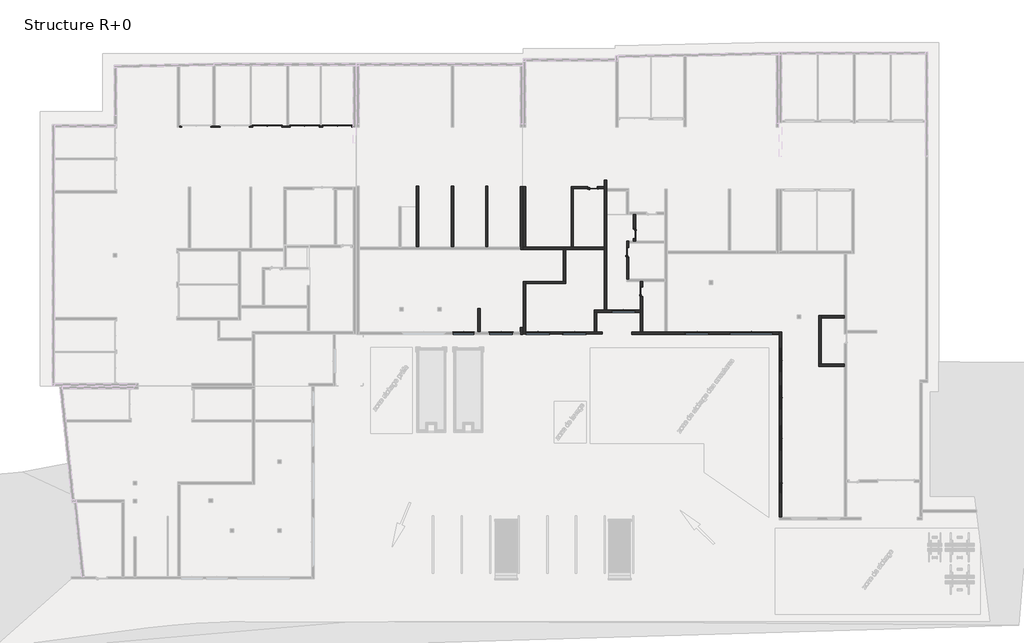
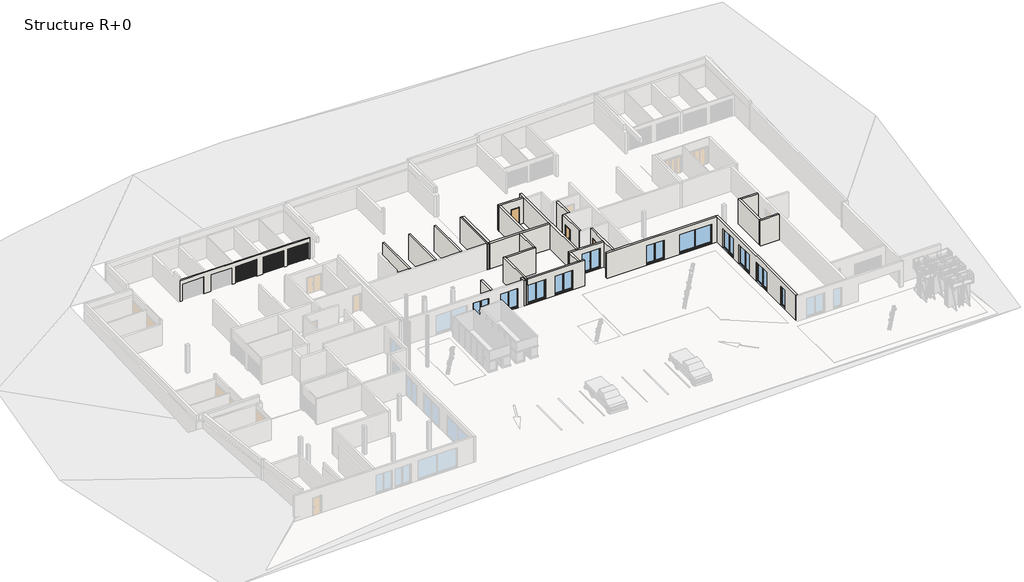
# One storey, part 3 of 8: 26 walls, 11 windows, 7 doors.
"""IFC4 building model written with IfcOpenShell, lengths in millimetres."""

from ifc_helpers import new_model, si_unit, frame, origin, origin_with_axes, place, context, project, spatial, polyline, outline, extrude, faceted_brep, transform, mapped, element, save
from components import door_2_4m_x_2m_ca442cef, int_simple_pp_0_83m_x_2_04m_d9e52805, int_simple_pp_0_83m_x_2_04m_469df17f, int_simple_pp_0_83m_x_2_04m_462b1650, window_0_80m_x_2_25m_5dfc30a4, window_1_80m_x_2_25m_6a560d0c, window_2_00m_x_2_35m_2ed9f70e, window_2m_x_2_25m_73eb5746, window_3_6m_x_2_25m_d801bdb7

model = new_model("IFC4")

# Units and contexts
model_context = context("Model", 3, world=origin())
ifc_project = project(units=[si_unit("LENGTHUNIT", "METRE", prefix="MILLI")], contexts=[model_context])

# Site, building, storey
site = spatial("IfcSite", under=ifc_project)
building = spatial("IfcBuilding", under=site)
storey = spatial("IfcBuildingStorey", under=building, Name="Structure R+0", Elevation=0.0)

# Doors
placement = place(None, origin())
door_2_4m_x_2m_shape = door_2_4m_x_2m_ca442cef(model_context)
element("IfcDoor", 1, ObjectType="Garage basculante : 2.4m x 2m", at=placement, inside=storey, context=model_context, shape_type="MappedRepresentation", body=[
    mapped(door_2_4m_x_2m_shape, transform((22246.2848609, 31548.8556304, 0.0), x_axis=(-1.0, 0.0, 0.0), y_axis=(0.0, -1.0, 0.0), z_axis=(0.0, 0.0, 1.0))),
])
element("IfcDoor", 2, ObjectType="Garage basculante : 2.4m x 2m", at=placement, inside=storey, context=model_context, shape_type="MappedRepresentation", body=[
    mapped(door_2_4m_x_2m_shape, transform((19494.2795115, 31548.8556304, 0.0), x_axis=(-1.0, 0.0, 0.0), y_axis=(0.0, -1.0, 0.0), z_axis=(0.0, 0.0, 1.0))),
])
element("IfcDoor", 3, ObjectType="Garage basculante : 2.4m x 2m", at=placement, inside=storey, context=model_context, shape_type="MappedRepresentation", body=[
    mapped(door_2_4m_x_2m_shape, transform((16361.19903, 31548.8556304, 0.0), x_axis=(-1.0, 0.0, 0.0), y_axis=(0.0, -1.0, 0.0), z_axis=(0.0, 0.0, 1.0))),
])
int_simple_pp_0_83m_x_2_04m_shape = int_simple_pp_0_83m_x_2_04m_d9e52805(model_context)
element("IfcDoor", 4, ObjectType="Int. Simple : PP (0.83m x 2.04m)", at=placement, inside=storey, context=model_context, shape_type="MappedRepresentation", body=[
    mapped(int_simple_pp_0_83m_x_2_04m_shape, transform((47187.0291518, 22857.2599127, 0.0), x_axis=(0.0, -1.0, 0.0), y_axis=(1.0, 0.0, 0.0), z_axis=(0.0, 0.0, 1.0))),
])
int_simple_pp_0_83m_x_2_04m_2_shape = int_simple_pp_0_83m_x_2_04m_469df17f(model_context)
element("IfcDoor", 5, ObjectType="Int. Simple : PP (0.83m x 2.04m)", at=placement, inside=storey, context=model_context, shape_type="MappedRepresentation", body=[
    mapped(int_simple_pp_0_83m_x_2_04m_2_shape, transform((46617.9132164, 21347.2599127, 0.0), x_axis=(0.0, 1.0, 0.0), y_axis=(-1.0, 0.0, 0.0), z_axis=(0.0, 0.0, 1.0))),
])
element("IfcDoor", 6, ObjectType="Int. Simple : PP (0.83m x 2.04m)", at=placement, inside=storey, context=model_context, shape_type="MappedRepresentation", body=[
    mapped(int_simple_pp_0_83m_x_2_04m_shape, transform((47787.5546594, 18058.9667397, 0.0), x_axis=(0.0, 1.0, 0.0), y_axis=(-1.0, 0.0, 0.0), z_axis=(0.0, 0.0, 1.0))),
])
int_simple_pp_0_83m_x_2_04m_3_shape = int_simple_pp_0_83m_x_2_04m_462b1650(model_context)
element("IfcDoor", 7, ObjectType="Int. Simple : PP (0.83m x 2.04m)", at=placement, inside=storey, context=model_context, shape_type="MappedRepresentation", body=[
    mapped(int_simple_pp_0_83m_x_2_04m_3_shape, transform((43722.2462422, 26757.7811664, 0.0), x_axis=(1.0, 0.0, 0.0), y_axis=(0.0, 1.0, 0.0), z_axis=(0.0, 0.0, 1.0))),
])

# Walls
element("IfcWall", 8, ObjectType="Ext. Voile BA 18", at=placement, inside=storey, context=model_context, shape_type="Brep", body=[
    faceted_brep([(46707.9132164, 22272.2599127, 3030.0), (46707.9132164, 22092.2599127, 3030.0), (46707.9132164, 19065.2786309, 3030.0), (46707.9132164, 19065.2786309, 0.0), (46707.9132164, 20862.2599127, 0.0), (46707.9132164, 20862.2599127, 2075.0), (46707.9132164, 21762.2599127, 2075.0), (46707.9132164, 21762.2599127, 0.0), (46707.9132164, 22092.2599127, 0.0), (46707.9132164, 22272.2599127, 0.0), (46527.9132164, 19065.2786309, 3030.0), (46527.9132164, 22272.2599127, 3030.0), (46527.9132164, 22272.2599127, 0.0), (46527.9132164, 21762.2599127, 0.0), (46527.9132164, 21762.2599127, 2075.0), (46527.9132164, 20862.2599127, 2075.0), (46527.9132164, 20862.2599127, 0.0), (46527.9132164, 19065.2786309, 0.0)], [[[0, 1, 2, 3, 4, 5, 6, 7, 8, 9]], [[10, 11, 12, 13, 14, 15, 16, 17]], [[3, 17, 16, 4]], [[12, 9, 8, 7, 13]], [[2, 1, 0, 11, 10]], [[3, 2, 10, 17]], [[0, 9, 12, 11]], [[6, 14, 13, 7]], [[14, 6, 5, 15]], [[15, 5, 4, 16]]]),
])
element("IfcWall", 9, ObjectType="Ext. Voile BA 20", at=placement, inside=storey, context=model_context, shape_type="SweptSolid", body=[
    extrude(outline(polyline([(34232.3966699, 16611.4012934), (34232.3966699, 14642.6998135), (34032.3966699, 14642.6998135), (34032.3966699, 16611.4012934), (34232.3966699, 16611.4012934)])), origin_with_axes(), (0.0, 0.0, 1.0), 3030.0),
])
element("IfcWall", 10, ObjectType="Ext. Voile BA 20", at=placement, inside=storey, context=model_context, shape_type="SweptSolid", body=[
    extrude(outline(polyline([(64812.3933514, 15809.2539559), (62872.0153589, 15809.2539559), (62872.0153589, 16009.2539559), (64812.3933514, 16009.2539559), (64812.3933514, 15809.2539559)])), origin_with_axes(), (0.0, 0.0, 1.0), 3030.0),
])
element("IfcWall", 11, ObjectType="Ext. Voile BA 20", at=placement, inside=storey, context=model_context, shape_type="Brep", body=[
    faceted_brep([(47687.5546594, 16492.6881549, 0.0), (44857.2462422, 16492.6881549, 0.0), (44657.2462422, 16492.6881549, 0.0), (43807.5546594, 16492.6881549, 0.0), (43807.5546594, 16492.6881549, 3030.0), (44657.2462422, 16492.6881549, 3030.0), (44857.2462422, 16492.6881549, 3030.0), (47687.5546594, 16492.6881549, 3030.0), (45222.4004508, 16492.6881549, 35.0), (47322.4004508, 16492.6881549, 35.0), (47322.4004508, 16492.6881549, 2435.0), (45222.4004508, 16492.6881549, 2435.0), (47687.5546594, 16292.6881549, 0.0), (47687.5546594, 16292.6881549, 3030.0), (44007.5546594, 16292.6881549, 3030.0), (43807.5546594, 16292.6881549, 3030.0), (43807.5546594, 16292.6881549, 0.0), (44007.5546594, 16292.6881549, 0.0), (47272.4004508, 16292.6881549, 2385.0), (47272.4004508, 16292.6881549, 22.3874918), (45272.4004508, 16292.6881549, 22.3874918), (45272.4004508, 16292.6881549, 2385.0), (47272.4004508, 16412.6881549, 35.0), (47272.4004508, 16392.6881549, 2385.0), (47272.4004508, 16392.6881549, 35.0), (45272.4004508, 16412.6881549, 35.0), (45272.4004508, 16392.6881549, 35.0), (45272.4004508, 16392.6881549, 2385.0), (47282.4004508, 16392.6881549, 35.0), (47282.4004508, 16442.6881549, 35.0), (47322.4004508, 16442.6881549, 35.0), (45222.4004508, 16442.6881549, 35.0), (45262.4004508, 16442.6881549, 35.0), (45262.4004508, 16392.6881549, 35.0), (47322.4004508, 16442.6881549, 2435.0), (47282.4004508, 16442.6881549, 2395.0), (45262.4004508, 16442.6881549, 2395.0), (45222.4004508, 16442.6881549, 2435.0), (47282.4004508, 16392.6881549, 2395.0), (45262.4004508, 16392.6881549, 2395.0)], [[[0, 1, 2, 3, 4, 5, 6, 7], [8, 9, 10, 11]], [[12, 13, 14, 15, 16, 17], [18, 19, 20, 21]], [[3, 2, 1, 0, 12, 17, 16]], [[7, 6, 5, 4, 15, 14, 13]], [[0, 7, 13, 12]], [[4, 3, 16, 15]], [[22, 19, 18, 23, 24]], [[20, 25, 26, 27, 21]], [[22, 25, 20, 19]], [[18, 21, 27, 23]], [[25, 22, 24, 28, 29, 30, 9, 8, 31, 32, 33, 26]], [[9, 30, 34, 10]], [[30, 29, 35, 36, 32, 31, 37, 34]], [[29, 28, 38, 35]], [[28, 24, 23, 27, 26, 33, 39, 38]], [[10, 34, 37, 11]], [[36, 35, 38, 39]], [[37, 31, 8, 11]], [[32, 36, 39, 33]]]),
])
element("IfcWall", 12, ObjectType="Ext. Voile BA 20", at=placement, inside=storey, context=model_context, shape_type="SweptSolid", body=[
    extrude(outline(polyline([(43807.5546594, 14652.6998135), (43807.5546594, 16292.6881549), (44007.5546594, 16292.6881549), (44007.5546594, 14652.6998135), (43807.5546594, 14652.6998135)])), origin_with_axes(), (0.0, 0.0, 1.0), 3030.0),
])
element("IfcWall", 13, ObjectType="Ext. Voile BA 20", at=placement, inside=storey, context=model_context, shape_type="SweptSolid", body=[
    extrude(outline(polyline([(22272.2599127, 3030.0), (24500.9913711, 3030.0), (24500.9913711, 0.0), (23342.2599127, 0.0), (23342.2599127, 2075.0), (22442.2599127, 2075.0), (22442.2599127, 0.0), (22272.2599127, 0.0), (22272.2599127, 3030.0)])), frame((47087.0291518, 0.0, 0.0), z_axis=(1.0, 0.0, 0.0), x_axis=(0.0, 1.0, 0.0)), (0.0, 0.0, 1.0), 200.0),
])
element("IfcWall", 14, ObjectType="Ext. Voile BA 20 + 2 enduit", at=placement, inside=storey, context=model_context, shape_type="Brep", body=[
    faceted_brep([(59542.9059955, -947.3118451, 0.0), (59542.9059955, 14647.8264154, 0.0), (59542.9059955, 14647.8264154, 3030.0), (59542.9059955, -947.3118451, 3030.0), (59542.9059955, 2022.6881549, 70.0), (59542.9059955, 1122.6881549, 70.0), (59542.9059955, 1122.6881549, 2370.0), (59542.9059955, 2022.6881549, 2370.0), (59542.9059955, 6777.955072, 70.0), (59542.9059955, 4677.955072, 70.0), (59542.9059955, 4677.955072, 2370.0), (59542.9059955, 6777.955072, 2370.0), (59542.9059955, 10197.955072, 70.0), (59542.9059955, 8097.955072, 70.0), (59542.9059955, 8097.955072, 2370.0), (59542.9059955, 10197.955072, 2370.0), (59542.9059955, 13330.5941452, 70.0), (59542.9059955, 11230.5941452, 70.0), (59542.9059955, 11230.5941452, 2370.0), (59542.9059955, 13330.5941452, 2370.0), (59342.9059955, -947.3118451, 0.0), (59342.9059955, -947.3118451, 3030.0), (59342.9059955, 14447.8264154, 3030.0), (59342.9059955, 14647.8264154, 3030.0), (59342.9059955, 14647.8264154, 0.0), (59342.9059955, 14447.8264154, 0.0), (59342.9059955, 1972.6881549, 57.3874918), (59342.9059955, 1972.6881549, 2320.0), (59342.9059955, 1172.6881549, 2320.0), (59342.9059955, 1172.6881549, 57.3874918), (59342.9059955, 6727.955072, 57.3874918), (59342.9059955, 6727.955072, 2320.0), (59342.9059955, 4727.955072, 2320.0), (59342.9059955, 4727.955072, 57.3874918), (59342.9059955, 10147.955072, 57.3874918), (59342.9059955, 10147.955072, 2320.0), (59342.9059955, 8147.955072, 2320.0), (59342.9059955, 8147.955072, 57.3874918), (59342.9059955, 13280.5941452, 57.3874918), (59342.9059955, 13280.5941452, 2320.0), (59342.9059955, 11280.5941452, 2320.0), (59342.9059955, 11280.5941452, 57.3874918), (59462.9059955, 1972.6881549, 70.0), (59442.9059955, 1972.6881549, 70.0), (59442.9059955, 1972.6881549, 2320.0), (59442.9059955, 1172.6881549, 2320.0), (59442.9059955, 1172.6881549, 70.0), (59462.9059955, 1172.6881549, 70.0), (59442.9059955, 1162.6881549, 70.0), (59492.9059955, 1162.6881549, 70.0), (59492.9059955, 1122.6881549, 70.0), (59492.9059955, 2022.6881549, 70.0), (59492.9059955, 1982.6881549, 70.0), (59442.9059955, 1982.6881549, 70.0), (59492.9059955, 2022.6881549, 2370.0), (59492.9059955, 1122.6881549, 2370.0), (59492.9059955, 1162.6881549, 2330.0), (59492.9059955, 1982.6881549, 2330.0), (59442.9059955, 1982.6881549, 2330.0), (59442.9059955, 1162.6881549, 2330.0), (59462.9059955, 6727.955072, 70.0), (59442.9059955, 6727.955072, 70.0), (59442.9059955, 6727.955072, 2320.0), (59442.9059955, 4727.955072, 2320.0), (59442.9059955, 4727.955072, 70.0), (59462.9059955, 4727.955072, 70.0), (59442.9059955, 4717.955072, 70.0), (59492.9059955, 4717.955072, 70.0), (59492.9059955, 4677.955072, 70.0), (59492.9059955, 6777.955072, 70.0), (59492.9059955, 6737.955072, 70.0), (59442.9059955, 6737.955072, 70.0), (59492.9059955, 6777.955072, 2370.0), (59492.9059955, 4677.955072, 2370.0), (59492.9059955, 4717.955072, 2330.0), (59492.9059955, 6737.955072, 2330.0), (59442.9059955, 6737.955072, 2330.0), (59442.9059955, 4717.955072, 2330.0), (59462.9059955, 10147.955072, 70.0), (59442.9059955, 10147.955072, 70.0), (59442.9059955, 10147.955072, 2320.0), (59442.9059955, 8147.955072, 2320.0), (59442.9059955, 8147.955072, 70.0), (59462.9059955, 8147.955072, 70.0), (59442.9059955, 8137.955072, 70.0), (59492.9059955, 8137.955072, 70.0), (59492.9059955, 8097.955072, 70.0), (59492.9059955, 10197.955072, 70.0), (59492.9059955, 10157.955072, 70.0), (59442.9059955, 10157.955072, 70.0), (59492.9059955, 10197.955072, 2370.0), (59492.9059955, 8097.955072, 2370.0), (59492.9059955, 8137.955072, 2330.0), (59492.9059955, 10157.955072, 2330.0), (59442.9059955, 10157.955072, 2330.0), (59442.9059955, 8137.955072, 2330.0), (59462.9059955, 13280.5941452, 70.0), (59442.9059955, 13280.5941452, 70.0), (59442.9059955, 13280.5941452, 2320.0), (59442.9059955, 11280.5941452, 2320.0), (59442.9059955, 11280.5941452, 70.0), (59462.9059955, 11280.5941452, 70.0), (59442.9059955, 11270.5941452, 70.0), (59492.9059955, 11270.5941452, 70.0), (59492.9059955, 11230.5941452, 70.0), (59492.9059955, 13330.5941452, 70.0), (59492.9059955, 13290.5941452, 70.0), (59442.9059955, 13290.5941452, 70.0), (59492.9059955, 13330.5941452, 2370.0), (59492.9059955, 11230.5941452, 2370.0), (59492.9059955, 11270.5941452, 2330.0), (59492.9059955, 13290.5941452, 2330.0), (59442.9059955, 13290.5941452, 2330.0), (59442.9059955, 11270.5941452, 2330.0)], [[[0, 1, 2, 3], [4, 5, 6, 7], [8, 9, 10, 11], [12, 13, 14, 15], [16, 17, 18, 19]], [[20, 21, 22, 23, 24, 25], [26, 27, 28, 29], [30, 31, 32, 33], [34, 35, 36, 37], [38, 39, 40, 41]], [[1, 0, 20, 25, 24]], [[3, 2, 23, 22, 21]], [[0, 3, 21, 20]], [[2, 1, 24, 23]], [[42, 43, 44, 27, 26]], [[29, 28, 45, 46, 47]], [[42, 26, 29, 47]], [[27, 44, 45, 28]], [[47, 46, 48, 49, 50, 5, 4, 51, 52, 53, 43, 42]], [[4, 7, 54, 51]], [[51, 54, 55, 50, 49, 56, 57, 52]], [[52, 57, 58, 53]], [[53, 58, 59, 48, 46, 45, 44, 43]], [[7, 6, 55, 54]], [[56, 59, 58, 57]], [[55, 6, 5, 50]], [[49, 48, 59, 56]], [[60, 61, 62, 31, 30]], [[33, 32, 63, 64, 65]], [[60, 30, 33, 65]], [[31, 62, 63, 32]], [[65, 64, 66, 67, 68, 9, 8, 69, 70, 71, 61, 60]], [[8, 11, 72, 69]], [[69, 72, 73, 68, 67, 74, 75, 70]], [[70, 75, 76, 71]], [[71, 76, 77, 66, 64, 63, 62, 61]], [[11, 10, 73, 72]], [[74, 77, 76, 75]], [[73, 10, 9, 68]], [[67, 66, 77, 74]], [[78, 79, 80, 35, 34]], [[37, 36, 81, 82, 83]], [[78, 34, 37, 83]], [[35, 80, 81, 36]], [[83, 82, 84, 85, 86, 13, 12, 87, 88, 89, 79, 78]], [[12, 15, 90, 87]], [[87, 90, 91, 86, 85, 92, 93, 88]], [[88, 93, 94, 89]], [[89, 94, 95, 84, 82, 81, 80, 79]], [[15, 14, 91, 90]], [[92, 95, 94, 93]], [[91, 14, 13, 86]], [[85, 84, 95, 92]], [[96, 97, 98, 39, 38]], [[41, 40, 99, 100, 101]], [[96, 38, 41, 101]], [[39, 98, 99, 40]], [[101, 100, 102, 103, 104, 17, 16, 105, 106, 107, 97, 96]], [[16, 19, 108, 105]], [[105, 108, 109, 104, 103, 110, 111, 106]], [[106, 111, 112, 107]], [[107, 112, 113, 102, 100, 99, 98, 97]], [[19, 18, 109, 108]], [[110, 113, 112, 111]], [[109, 18, 17, 104]], [[103, 102, 113, 110]]]),
])
element("IfcWall", 15, ObjectType="Ext. Voile BA 20 + 2 enduit", at=placement, inside=storey, context=model_context, shape_type="Brep", body=[
    faceted_brep([(59342.9059955, 14647.8264154, 0.0), (49924.9149229, 14647.8264154, 0.0), (49724.9149229, 14647.8264154, 0.0), (47887.5546594, 14647.8264154, 0.0), (47687.5546594, 14647.8264154, 0.0), (46963.8975177, 14647.8264154, 0.0), (46963.8975177, 14647.8264154, 3030.0), (47687.5546594, 14647.8264154, 3030.0), (47887.5546594, 14647.8264154, 3030.0), (49724.9149229, 14647.8264154, 3030.0), (49924.9149229, 14647.8264154, 3030.0), (59342.9059955, 14647.8264154, 3030.0), (51379.9149229, 14647.8264154, 70.0), (53479.9149229, 14647.8264154, 70.0), (53479.9149229, 14647.8264154, 2370.0), (51379.9149229, 14647.8264154, 2370.0), (55131.1686241, 14647.8264154, 70.0), (58831.1686241, 14647.8264154, 70.0), (58831.1686241, 14647.8264154, 2370.0), (55131.1686241, 14647.8264154, 2370.0), (59342.9059955, 14447.8264154, 0.0), (59342.9059955, 14447.8264154, 3030.0), (46963.8975177, 14447.8264154, 3030.0), (46963.8975177, 14447.8264154, 0.0), (51429.9149229, 14447.8264154, 57.3874918), (51429.9149229, 14447.8264154, 2320.0), (53429.9149229, 14447.8264154, 2320.0), (53429.9149229, 14447.8264154, 57.3874918), (55181.1686241, 14447.8264154, 57.3874918), (55181.1686241, 14447.8264154, 2320.0), (58781.1686241, 14447.8264154, 2320.0), (58781.1686241, 14447.8264154, 57.3874918), (51429.9149229, 14567.8264154, 70.0), (51429.9149229, 14547.8264154, 70.0), (51429.9149229, 14547.8264154, 2320.0), (53429.9149229, 14547.8264154, 2320.0), (53429.9149229, 14547.8264154, 70.0), (53429.9149229, 14567.8264154, 70.0), (53439.9149229, 14547.8264154, 70.0), (53439.9149229, 14597.8264154, 70.0), (53479.9149229, 14597.8264154, 70.0), (51379.9149229, 14597.8264154, 70.0), (51419.9149229, 14597.8264154, 70.0), (51419.9149229, 14547.8264154, 70.0), (51379.9149229, 14597.8264154, 2370.0), (53479.9149229, 14597.8264154, 2370.0), (53439.9149229, 14597.8264154, 2330.0), (51419.9149229, 14597.8264154, 2330.0), (51419.9149229, 14547.8264154, 2330.0), (53439.9149229, 14547.8264154, 2330.0), (55181.1686241, 14567.8264154, 70.0), (55181.1686241, 14547.8264154, 70.0), (55181.1686241, 14547.8264154, 2320.0), (58781.1686241, 14547.8264154, 2320.0), (58781.1686241, 14547.8264154, 70.0), (58781.1686241, 14567.8264154, 70.0), (58791.1686241, 14547.8264154, 70.0), (58791.1686241, 14597.8264154, 70.0), (58831.1686241, 14597.8264154, 70.0), (55131.1686241, 14597.8264154, 70.0), (55171.1686241, 14597.8264154, 70.0), (55171.1686241, 14547.8264154, 70.0), (55131.1686241, 14597.8264154, 2370.0), (58831.1686241, 14597.8264154, 2370.0), (58791.1686241, 14597.8264154, 2330.0), (55171.1686241, 14597.8264154, 2330.0), (55171.1686241, 14547.8264154, 2330.0), (58791.1686241, 14547.8264154, 2330.0)], [[[0, 1, 2, 3, 4, 5, 6, 7, 8, 9, 10, 11], [12, 13, 14, 15], [16, 17, 18, 19]], [[20, 21, 22, 23], [24, 25, 26, 27], [28, 29, 30, 31]], [[5, 4, 3, 2, 1, 0, 20, 23]], [[6, 5, 23, 22]], [[11, 10, 9, 8, 7, 6, 22, 21]], [[0, 11, 21, 20]], [[32, 33, 34, 25, 24]], [[27, 26, 35, 36, 37]], [[32, 24, 27, 37]], [[25, 34, 35, 26]], [[37, 36, 38, 39, 40, 13, 12, 41, 42, 43, 33, 32]], [[12, 15, 44, 41]], [[41, 44, 45, 40, 39, 46, 47, 42]], [[42, 47, 48, 43]], [[43, 48, 49, 38, 36, 35, 34, 33]], [[15, 14, 45, 44]], [[46, 49, 48, 47]], [[45, 14, 13, 40]], [[39, 38, 49, 46]], [[50, 51, 52, 29, 28]], [[31, 30, 53, 54, 55]], [[50, 28, 31, 55]], [[29, 52, 53, 30]], [[55, 54, 56, 57, 58, 17, 16, 59, 60, 61, 51, 50]], [[16, 19, 62, 59]], [[59, 62, 63, 58, 57, 64, 65, 60]], [[60, 65, 66, 61]], [[61, 66, 67, 56, 54, 53, 52, 51]], [[19, 18, 63, 62]], [[64, 67, 66, 65]], [[63, 18, 17, 58]], [[57, 56, 67, 64]]]),
])
element("IfcWall", 16, ObjectType="Ext. Voile BA 20 + 2 enduit", at=placement, inside=storey, context=model_context, shape_type="Brep", body=[
    faceted_brep([(44467.5546594, 14652.6998135, 0.0), (44007.5546594, 14652.6998135, 0.0), (43807.5546594, 14652.6998135, 0.0), (38068.7313075, 14652.6998135, 0.0), (38068.7313075, 14652.6998135, 70.0), (40068.7313075, 14652.6998135, 70.0), (40118.7313075, 14652.6998135, 70.0), (40118.7313075, 14652.6998135, 2370.0), (38068.7313075, 14652.6998135, 2370.0), (38068.7313075, 14652.6998135, 3030.0), (43807.5546594, 14652.6998135, 3030.0), (44007.5546594, 14652.6998135, 3030.0), (44467.5546594, 14652.6998135, 3030.0), (41097.5546594, 14652.6998135, 70.0), (43197.5546594, 14652.6998135, 70.0), (43197.5546594, 14652.6998135, 2370.0), (41097.5546594, 14652.6998135, 2370.0), (38068.7313075, 14452.6998135, 0.0), (44467.5546594, 14452.6998135, 0.0), (44467.5546594, 14452.6998135, 3030.0), (38068.7313075, 14452.6998135, 3030.0), (38068.7313075, 14452.6998135, 2320.0), (40068.7313075, 14452.6998135, 2320.0), (40068.7313075, 14452.6998135, 57.3874918), (38068.7313075, 14452.6998135, 57.3874918), (41147.5546594, 14452.6998135, 57.3874918), (41147.5546594, 14452.6998135, 2320.0), (43147.5546594, 14452.6998135, 2320.0), (43147.5546594, 14452.6998135, 57.3874918), (38068.7313075, 14572.6998135, 70.0), (38068.7313075, 14602.6998135, 2370.0), (38068.7313075, 14602.6998135, 2330.0), (38068.7313075, 14552.6998135, 2330.0), (38068.7313075, 14552.6998135, 2320.0), (40068.7313075, 14552.6998135, 2320.0), (40068.7313075, 14552.6998135, 70.0), (40068.7313075, 14572.6998135, 70.0), (40078.7313075, 14552.6998135, 70.0), (40078.7313075, 14602.6998135, 70.0), (40118.7313075, 14602.6998135, 70.0), (40078.7313075, 14602.6998135, 2330.0), (40118.7313075, 14602.6998135, 2370.0), (40078.7313075, 14552.6998135, 2330.0), (41147.5546594, 14572.6998135, 70.0), (41147.5546594, 14552.6998135, 70.0), (41147.5546594, 14552.6998135, 2320.0), (43147.5546594, 14552.6998135, 2320.0), (43147.5546594, 14552.6998135, 70.0), (43147.5546594, 14572.6998135, 70.0), (43157.5546594, 14552.6998135, 70.0), (43157.5546594, 14602.6998135, 70.0), (43197.5546594, 14602.6998135, 70.0), (41097.5546594, 14602.6998135, 70.0), (41137.5546594, 14602.6998135, 70.0), (41137.5546594, 14552.6998135, 70.0), (41097.5546594, 14602.6998135, 2370.0), (43197.5546594, 14602.6998135, 2370.0), (43157.5546594, 14602.6998135, 2330.0), (41137.5546594, 14602.6998135, 2330.0), (41137.5546594, 14552.6998135, 2330.0), (43157.5546594, 14552.6998135, 2330.0)], [[[0, 1, 2, 3, 4, 5, 6, 7, 8, 9, 10, 11, 12], [13, 14, 15, 16]], [[17, 18, 19, 20, 21, 22, 23, 24], [25, 26, 27, 28]], [[3, 2, 1, 0, 18, 17]], [[12, 11, 10, 9, 20, 19]], [[0, 12, 19, 18]], [[3, 17, 24, 29, 4]], [[20, 9, 8, 30, 31, 32, 33, 21]], [[34, 35, 36, 23, 22]], [[36, 35, 37, 38, 39, 6, 5, 4, 29]], [[33, 34, 22, 21]], [[36, 29, 24, 23]], [[39, 38, 40, 31, 30, 41]], [[35, 34, 33, 32, 42, 37]], [[7, 41, 30, 8]], [[40, 42, 32, 31]], [[6, 39, 41, 7]], [[38, 37, 42, 40]], [[43, 44, 45, 26, 25]], [[28, 27, 46, 47, 48]], [[43, 25, 28, 48]], [[26, 45, 46, 27]], [[48, 47, 49, 50, 51, 14, 13, 52, 53, 54, 44, 43]], [[13, 16, 55, 52]], [[52, 55, 56, 51, 50, 57, 58, 53]], [[53, 58, 59, 54]], [[54, 59, 60, 49, 47, 46, 45, 44]], [[16, 15, 56, 55]], [[57, 60, 59, 58]], [[56, 15, 14, 51]], [[50, 49, 60, 57]]]),
])
element("IfcWall", 17, ObjectType="Int. Parpaing 100 mm", at=placement, inside=storey, context=model_context, shape_type="Brep", body=[
    faceted_brep([(23603.2655761, 31942.4079561, 2510.0), (23603.2655761, 31942.4079561, 0.0), (23476.2848609, 31942.4079561, 0.0), (23476.2848609, 31942.4079561, 2015.0), (21046.2848609, 31942.4079561, 2015.0), (21046.2848609, 31942.4079561, 0.0), (20919.3041456, 31942.4079561, 0.0), (20819.3041456, 31942.4079561, 0.0), (20724.2795115, 31942.4079561, 0.0), (20724.2795115, 31942.4079561, 2015.0), (18294.2795115, 31942.4079561, 2015.0), (18294.2795115, 31942.4079561, 0.0), (18199.2548774, 31942.4079561, 0.0), (17999.2548774, 31942.4079561, 0.0), (17591.19903, 31942.4079561, 0.0), (17591.19903, 31942.4079561, 2015.0), (15161.19903, 31942.4079561, 2015.0), (15161.19903, 31942.4079561, 0.0), (15036.19903, 31942.4079561, 0.0), (14936.19903, 31942.4079561, 0.0), (14851.19903, 31942.4079561, 0.0), (14851.19903, 31942.4079561, 2015.0), (12421.19903, 31942.4079561, 2015.0), (12421.19903, 31942.4079561, 0.0), (12003.2321127, 31942.4079561, 0.0), (11803.2321127, 31942.4079561, 0.0), (11632.5131269, 31942.4079561, 0.0), (11632.5131269, 31942.4079561, 2015.0), (9202.5131269, 31942.4079561, 2015.0), (9202.5131269, 31942.4079561, 0.0), (9017.5131269, 31942.4079561, 0.0), (9017.5131269, 31942.4079561, 2510.0), (11803.2321127, 31942.4079561, 2510.0), (11991.9058449, 31942.4079561, 2510.0), (12003.2321127, 31942.4079561, 2510.0), (14936.19903, 31942.4079561, 2510.0), (15036.19903, 31942.4079561, 2510.0), (17999.2548774, 31942.4079561, 2510.0), (18199.2548774, 31942.4079561, 2510.0), (20819.3041456, 31942.4079561, 2510.0), (20919.3041456, 31942.4079561, 2510.0), (23603.2655761, 31842.4079561, 0.0), (23603.2655761, 31842.4079561, 2510.0), (11991.9058449, 31842.4079561, 2510.0), (9017.5131269, 31842.4079561, 2510.0), (9017.5131269, 31842.4079561, 0.0), (9202.5131269, 31842.4079561, 0.0), (9202.5131269, 31842.4079561, 2015.0), (11632.5131269, 31842.4079561, 2015.0), (11632.5131269, 31842.4079561, 0.0), (12421.19903, 31842.4079561, 0.0), (12421.19903, 31842.4079561, 2015.0), (14851.19903, 31842.4079561, 2015.0), (14851.19903, 31842.4079561, 0.0), (15161.19903, 31842.4079561, 0.0), (15161.19903, 31842.4079561, 2015.0), (17591.19903, 31842.4079561, 2015.0), (17591.19903, 31842.4079561, 0.0), (18294.2795115, 31842.4079561, 0.0), (18294.2795115, 31842.4079561, 2015.0), (20724.2795115, 31842.4079561, 2015.0), (20724.2795115, 31842.4079561, 0.0), (21046.2848609, 31842.4079561, 0.0), (21046.2848609, 31842.4079561, 2015.0), (23476.2848609, 31842.4079561, 2015.0), (23476.2848609, 31842.4079561, 0.0)], [[[0, 1, 2, 3, 4, 5, 6, 7, 8, 9, 10, 11, 12, 13, 14, 15, 16, 17, 18, 19, 20, 21, 22, 23, 24, 25, 26, 27, 28, 29, 30, 31, 32, 33, 34, 35, 36, 37, 38, 39, 40]], [[41, 42, 43, 44, 45, 46, 47, 48, 49, 50, 51, 52, 53, 54, 55, 56, 57, 58, 59, 60, 61, 62, 63, 64, 65]], [[1, 41, 65, 2]], [[5, 62, 61, 8, 7, 6]], [[11, 58, 57, 14, 13, 12]], [[17, 54, 53, 20, 19, 18]], [[23, 50, 49, 26, 25, 24]], [[45, 30, 29, 46]], [[1, 0, 42, 41]], [[63, 4, 3, 64]], [[64, 3, 2, 65]], [[4, 63, 62, 5]], [[59, 10, 9, 60]], [[60, 9, 8, 61]], [[10, 59, 58, 11]], [[55, 16, 15, 56]], [[56, 15, 14, 57]], [[16, 55, 54, 17]], [[51, 22, 21, 52]], [[52, 21, 20, 53]], [[22, 51, 50, 23]], [[31, 30, 45, 44]], [[47, 28, 27, 48]], [[48, 27, 26, 49]], [[28, 47, 46, 29]], [[31, 44, 43, 33, 32]], [[0, 40, 39, 38, 37, 36, 35, 34, 33, 43, 42]]]),
])
element("IfcWall", 18, ObjectType="Voile BA 20", at=placement, inside=storey, context=model_context, shape_type="Brep", body=[
    faceted_brep([(37608.398272, 26857.8211921, 0.0), (37608.398272, 21772.7235205, 0.0), (37608.398272, 21572.7235205, 0.0), (37608.398272, 21572.7235205, 3030.0), (37608.398272, 21772.7235205, 3030.0), (37608.398272, 26857.8211921, 3030.0), (37808.398272, 26857.8211921, 0.0), (37808.398272, 26857.8211921, 3030.0), (37808.398272, 21572.7235205, 3030.0), (37808.398272, 21572.7235205, 0.0), (37807.390788, 26857.8211921, 3030.0), (37807.390788, 21572.7235205, 3030.0)], [[[0, 1, 2, 3, 4, 5]], [[6, 7, 8, 9]], [[2, 1, 0, 6, 9]], [[0, 5, 10, 7, 6]], [[3, 2, 9, 8, 11]], [[11, 8, 7, 10]], [[5, 4, 3, 11, 10]]]),
])
element("IfcWall", 19, ObjectType="Voile BA 20", at=placement, inside=storey, context=model_context, shape_type="Brep", body=[
    faceted_brep([(29098.2960148, 21772.7235205, 0.0), (29098.2960148, 26872.7235205, 0.0), (29098.2960148, 26872.7235205, 3030.0), (29098.2960148, 21772.7235205, 3030.0), (28898.2960148, 21772.7235205, 0.0), (28898.2960148, 21772.7235205, 3030.0), (28898.2960148, 22272.4973448, 3030.0), (28898.2960148, 25007.8260092, 3030.0), (28898.2960148, 26872.7235205, 3030.0), (28898.2960148, 26872.7235205, 0.0)], [[[0, 1, 2, 3]], [[4, 5, 6, 7, 8, 9]], [[1, 0, 4, 9]], [[2, 1, 9, 8]], [[0, 3, 5, 4]], [[3, 2, 8, 7, 6, 5]]]),
])
element("IfcWall", 20, ObjectType="Voile BA 20", at=placement, inside=storey, context=model_context, shape_type="SweptSolid", body=[
    extrude(outline(polyline([(32028.7712439, 26872.7235205), (32028.7712439, 21772.7235205), (31828.7712439, 21772.7235205), (31828.7712439, 26872.7235205), (32028.7712439, 26872.7235205)])), origin_with_axes(), (0.0, 0.0, 1.0), 3030.0),
])
element("IfcWall", 21, ObjectType="Voile BA 20", at=placement, inside=storey, context=model_context, shape_type="SweptSolid", body=[
    extrude(outline(polyline([(34893.7772107, 26872.7235205), (34893.7772107, 21772.7235205), (34693.7772107, 21772.7235205), (34693.7772107, 26872.7235205), (34893.7772107, 26872.7235205)])), origin_with_axes(), (0.0, 0.0, 1.0), 3030.0),
])
element("IfcWall", 22, ObjectType="Voile BA 20", at=placement, inside=storey, context=model_context, shape_type="SweptSolid", body=[
    extrude(outline(polyline([(0.0, 37808.3960659), (3030.0, 37808.3960659), (3030.0, 37807.390788), (3030.0, 37608.3960659), (0.0, 37608.3960659), (0.0, 37808.3960659)])), frame((0.0, 14442.6998135, 0.0), z_axis=(0.0, 1.0, 0.0), x_axis=(0.0, 0.0, 1.0)), (0.0, 0.0, 1.0), 577.0),
])
element("IfcWall", 23, ObjectType="Voile BA 20", at=placement, inside=storey, context=model_context, shape_type="Brep", body=[
    faceted_brep([(64812.3933514, 11949.2539559, 0.0), (62872.0153589, 11949.2539559, 0.0), (62672.0153589, 11949.2539559, 0.0), (62672.0153589, 11949.2539559, 3030.0), (62872.0153589, 11949.2539559, 3030.0), (64812.3933514, 11949.2539559, 3030.0), (64812.3933514, 11749.2539559, 0.0), (64812.3933514, 11749.2539559, 3030.0), (62672.0153589, 11749.2539559, 3030.0), (62672.0153589, 11749.2539559, 0.0)], [[[0, 1, 2, 3, 4, 5]], [[6, 7, 8, 9]], [[2, 1, 0, 6, 9]], [[5, 4, 3, 8, 7]], [[0, 5, 7, 6]], [[3, 2, 9, 8]]]),
])
element("IfcWall", 24, ObjectType="Voile BA 20", at=placement, inside=storey, context=model_context, shape_type="Brep", body=[
    faceted_brep([(62872.0153589, 11949.2539559, 0.0), (62872.0153589, 15809.2539559, 0.0), (62872.0153589, 16009.2539559, 0.0), (62872.0153589, 16009.2539559, 3030.0), (62872.0153589, 15809.2539559, 3030.0), (62872.0153589, 11949.2539559, 3030.0), (62672.0153589, 11949.2539559, 0.0), (62672.0153589, 11949.2539559, 3030.0), (62672.0153589, 16009.2539559, 3030.0), (62672.0153589, 16009.2539559, 0.0)], [[[0, 1, 2, 3, 4, 5]], [[6, 7, 8, 9]], [[2, 1, 0, 6, 9]], [[5, 4, 3, 8, 7]], [[0, 5, 7, 6]], [[3, 2, 9, 8]]]),
])
element("IfcWall", 25, ObjectType="Voile BA 20", at=placement, inside=storey, context=model_context, shape_type="Brep", body=[
    faceted_brep([(38068.7313075, 14452.6998135, 0.0), (38068.7313075, 14652.6998135, 0.0), (38068.7313075, 18692.1677314, 0.0), (38068.7313075, 18892.1677314, 0.0), (38068.7313075, 18892.1677314, 3030.0), (38068.7313075, 18692.1677314, 3030.0), (38068.7313075, 14652.6998135, 3030.0), (38068.7313075, 14452.6998135, 3030.0), (38068.7313075, 14452.6998135, 2320.0), (38068.7313075, 14452.6998135, 57.3874918), (38068.7313075, 14572.6998135, 70.0), (38068.7313075, 14552.6998135, 70.0), (38068.7313075, 14552.6998135, 2320.0), (38068.7313075, 14552.6998135, 2330.0), (38068.7313075, 14602.6998135, 2330.0), (38068.7313075, 14602.6998135, 2370.0), (38068.7313075, 14652.6998135, 2370.0), (38068.7313075, 14652.6998135, 2320.0), (38068.7313075, 14652.6998135, 70.0), (37868.7313075, 18892.1677314, 0.0), (37868.7313075, 14452.6998135, 0.0), (37868.7313075, 14452.6998135, 3030.0), (37868.7313075, 18892.1677314, 3030.0), (38018.7313075, 14652.6998135, 70.0), (38018.7313075, 14602.6998135, 70.0), (38058.7313075, 14602.6998135, 70.0), (38058.7313075, 14552.6998135, 70.0), (38018.7313075, 14652.6998135, 2370.0), (38018.7313075, 14602.6998135, 2370.0), (38058.7313075, 14602.6998135, 2330.0), (38058.7313075, 14552.6998135, 2330.0)], [[[0, 1, 2, 3, 4, 5, 6, 7, 8, 9], [10, 11, 12, 13, 14, 15, 16, 17, 18]], [[19, 20, 21, 22]], [[3, 2, 1, 0, 20, 19]], [[7, 6, 5, 4, 22, 21]], [[4, 3, 19, 22]], [[7, 21, 20, 0, 9, 8]], [[18, 23, 24, 25, 26, 11, 10]], [[24, 23, 27, 28]], [[25, 24, 28, 15, 14, 29]], [[26, 25, 29, 30]], [[11, 26, 30, 13, 12]], [[23, 18, 17, 16, 27]], [[28, 27, 16, 15]], [[30, 29, 14, 13]]]),
])
element("IfcWall", 26, ObjectType="Voile BA 20", at=placement, inside=storey, context=model_context, shape_type="Brep", body=[
    faceted_brep([(38068.7313075, 18692.1677314, 0.0), (41428.6220947, 18692.1677314, 0.0), (41428.6220947, 18692.1677314, 3030.0), (38068.7313075, 18692.1677314, 3030.0), (38068.7313075, 18892.1677314, 0.0), (38068.7313075, 18892.1677314, 3030.0), (41228.6220947, 18892.1677314, 3030.0), (41428.6220947, 18892.1677314, 3030.0), (41428.6220947, 18892.1677314, 0.0), (41228.6220947, 18892.1677314, 0.0)], [[[0, 1, 2, 3]], [[4, 5, 6, 7, 8, 9]], [[1, 0, 4, 9, 8]], [[3, 2, 7, 6, 5]], [[0, 3, 5, 4]], [[2, 1, 8, 7]]]),
])
element("IfcWall", 27, ObjectType="Voile BA 20", at=placement, inside=storey, context=model_context, shape_type="SweptSolid", body=[
    extrude(outline(polyline([(41428.6220947, 21572.4950582), (41428.6220947, 18892.1677314), (41228.6220947, 18892.1677314), (41228.6220947, 21572.4950582), (41428.6220947, 21572.4950582)])), origin_with_axes(), (0.0, 0.0, 1.0), 3030.0),
])
element("IfcWall", 28, ObjectType="Voile BA 20", at=placement, inside=storey, context=model_context, shape_type="Brep", body=[
    faceted_brep([(37868.7313075, 21572.4950582, 0.0), (41228.6220947, 21572.4950582, 0.0), (41428.6220947, 21572.4950582, 0.0), (44657.2462422, 21572.4950582, 0.0), (44657.2462422, 21572.4950582, 3030.0), (41428.6220947, 21572.4950582, 3030.0), (41228.6220947, 21572.4950582, 3030.0), (37868.7313075, 21572.4950582, 3030.0), (37868.7313075, 21772.4950582, 0.0), (37868.7313075, 21772.4950582, 3030.0), (38068.7313075, 21772.4950582, 3030.0), (41866.5033212, 21772.4950582, 3030.0), (42066.5033212, 21772.4950582, 3030.0), (44657.2462422, 21772.4950582, 3030.0), (44657.2462422, 21772.4950582, 0.0), (42066.5033212, 21772.4950582, 0.0), (41866.5033212, 21772.4950582, 0.0), (38068.7313075, 21772.4950582, 0.0)], [[[0, 1, 2, 3, 4, 5, 6, 7]], [[8, 9, 10, 11, 12, 13, 14, 15, 16, 17]], [[3, 2, 1, 0, 8, 17, 16, 15, 14]], [[7, 6, 5, 4, 13, 12, 11, 10, 9]], [[4, 3, 14, 13]], [[0, 7, 9, 8]]]),
])
element("IfcWall", 29, ObjectType="Voile BA 20", at=placement, inside=storey, context=model_context, shape_type="Brep", body=[
    faceted_brep([(44857.2462422, 16492.6881549, 0.0), (44857.2462422, 26457.7796483, 0.0), (44857.2462422, 26657.7796483, 0.0), (44857.2462422, 27389.0932928, 0.0), (44857.2462422, 27389.0932928, 2720.0), (44857.2462422, 27389.0932928, 3030.0), (44857.2462422, 27376.5946511, 3030.0), (44857.2462422, 26657.7796483, 3030.0), (44857.2462422, 26457.7796483, 3030.0), (44857.2462422, 16492.6881549, 3030.0), (44657.2462422, 16492.6881549, 0.0), (44657.2462422, 16492.6881549, 3030.0), (44657.2462422, 21572.4950582, 3030.0), (44657.2462422, 21772.4950582, 3030.0), (44657.2462422, 26657.7811664, 3030.0), (44657.2462422, 26857.7811664, 3030.0), (44657.2462422, 27376.5946511, 3030.0), (44657.2462422, 27389.0932928, 3030.0), (44657.2462422, 27389.0932928, 2720.0), (44657.2462422, 27389.0932928, 0.0), (44657.2462422, 26857.7811664, 0.0), (44657.2462422, 26657.7811664, 0.0), (44657.2462422, 21772.4950582, 0.0), (44657.2462422, 21572.4950582, 0.0)], [[[0, 1, 2, 3, 4, 5, 6, 7, 8, 9]], [[10, 11, 12, 13, 14, 15, 16, 17, 18, 19, 20, 21, 22, 23]], [[3, 2, 1, 0, 10, 23, 22, 21, 20, 19]], [[5, 4, 3, 19, 18, 17]], [[9, 8, 7, 6, 5, 17, 16, 15, 14, 13, 12, 11]], [[0, 9, 11, 10]]]),
])
element("IfcWall", 30, ObjectType="Voile BA 20", at=placement, inside=storey, context=model_context, shape_type="Brep", body=[
    faceted_brep([(41866.5033212, 26857.7811664, 3030.0), (44657.2462422, 26857.7811664, 3030.0), (44657.2462422, 26857.7811664, 0.0), (44137.2462422, 26857.7811664, 0.0), (44137.2462422, 26857.7811664, 2075.0), (43237.2462422, 26857.7811664, 2075.0), (43237.2462422, 26857.7811664, 0.0), (41866.5033212, 26857.7811664, 0.0), (44657.2462422, 26657.7811664, 3030.0), (42066.5033212, 26657.7811664, 3030.0), (41866.5033212, 26657.7811664, 3030.0), (41866.5033212, 26657.7811664, 0.0), (42066.5033212, 26657.7811664, 0.0), (43237.2462422, 26657.7811664, 0.0), (43237.2462422, 26657.7811664, 2075.0), (44137.2462422, 26657.7811664, 2075.0), (44137.2462422, 26657.7811664, 0.0), (44657.2462422, 26657.7811664, 0.0)], [[[0, 1, 2, 3, 4, 5, 6, 7]], [[8, 9, 10, 11, 12, 13, 14, 15, 16, 17]], [[2, 17, 16, 3]], [[11, 7, 6, 13, 12]], [[1, 0, 10, 9, 8]], [[2, 1, 8, 17]], [[0, 7, 11, 10]], [[15, 4, 3, 16]], [[4, 15, 14, 5]], [[5, 14, 13, 6]]]),
])
element("IfcWall", 31, ObjectType="Voile BA 20", at=placement, inside=storey, context=model_context, shape_type="Brep", body=[
    faceted_brep([(41866.5033212, 26657.7811664, 0.0), (41866.5033212, 21772.4950582, 0.0), (41866.5033212, 21772.4950582, 3030.0), (41866.5033212, 24222.4972452, 3030.0), (41866.5033212, 24522.4972452, 3030.0), (41866.5033212, 26657.7811664, 3030.0), (42066.5033212, 26657.7811664, 0.0), (42066.5033212, 26657.7811664, 3030.0), (42066.5033212, 24522.4972452, 3030.0), (42066.5033212, 24222.4972452, 3030.0), (42066.5033212, 21772.4950582, 3030.0), (42066.5033212, 21772.4950582, 0.0)], [[[0, 1, 2, 3, 4, 5]], [[6, 7, 8, 9, 10, 11]], [[1, 0, 6, 11]], [[5, 4, 3, 2, 10, 9, 8, 7]], [[0, 5, 7, 6]], [[2, 1, 11, 10]]]),
])
element("IfcWall", 32, ObjectType="Voile BA 20", at=placement, inside=storey, context=model_context, shape_type="SweptSolid", body=[
    extrude(outline(polyline([(38068.7313075, 26857.8211921), (38068.7313075, 21772.4950582), (37868.7313075, 21772.4950582), (37868.7313075, 26857.8211921), (38068.7313075, 26857.8211921)])), origin_with_axes(), (0.0, 0.0, 1.0), 3030.0),
])
element("IfcWall", 33, ObjectType="Voile BA 20", at=placement, inside=storey, context=model_context, shape_type="Brep", body=[
    faceted_brep([(47887.5546594, 18865.2786309, 3030.0), (47887.5546594, 14647.8264154, 3030.0), (47887.5546594, 14647.8264154, 0.0), (47887.5546594, 17573.9667397, 0.0), (47887.5546594, 17573.9667397, 2075.0), (47887.5546594, 18473.9667397, 2075.0), (47887.5546594, 18473.9667397, 0.0), (47887.5546594, 18865.2786309, 0.0), (47687.5546594, 14647.8264154, 3030.0), (47687.5546594, 16292.6881549, 3030.0), (47687.5546594, 16492.6881549, 3030.0), (47687.5546594, 18865.2786309, 3030.0), (47687.5546594, 18865.2786309, 0.0), (47687.5546594, 18473.9667397, 0.0), (47687.5546594, 18473.9667397, 2075.0), (47687.5546594, 17573.9667397, 2075.0), (47687.5546594, 17573.9667397, 0.0), (47687.5546594, 16492.6881549, 0.0), (47687.5546594, 16292.6881549, 0.0), (47687.5546594, 14647.8264154, 0.0)], [[[0, 1, 2, 3, 4, 5, 6, 7]], [[8, 9, 10, 11, 12, 13, 14, 15, 16, 17, 18, 19]], [[2, 19, 18, 17, 16, 3]], [[12, 7, 6, 13]], [[1, 0, 11, 10, 9, 8]], [[2, 1, 8, 19]], [[0, 7, 12, 11]], [[5, 14, 13, 6]], [[14, 5, 4, 15]], [[15, 4, 3, 16]]]),
])

# Windows
window_0_80m_x_2_25m_shape = window_0_80m_x_2_25m_5dfc30a4(model_context)
element("IfcWindow", 34, ObjectType="PF 1 Vantail - Droite : 0.80m x 2.25m", at=placement, inside=storey, context=model_context, shape_type="MappedRepresentation", body=[
    mapped(window_0_80m_x_2_25m_shape, transform((59442.9059955, 1572.6881549, 35.0), x_axis=(0.0, -1.0, 0.0), y_axis=(1.0, 0.0, 0.0), z_axis=(0.0, 0.0, 1.0))),
])
window_1_80m_x_2_25m_shape = window_1_80m_x_2_25m_6a560d0c(model_context)
element("IfcWindow", 35, ObjectType="PF 2 Vantaux - Droits : 1.80m x 2.25m", at=placement, inside=storey, context=model_context, shape_type="MappedRepresentation", body=[
    mapped(window_1_80m_x_2_25m_shape, transform((32847.3966699, 14542.6998135, 35.0), x_axis=(1.0, 0.0, 0.0), y_axis=(0.0, 1.0, 0.0), z_axis=(0.0, 0.0, 1.0))),
])
window_2_00m_x_2_35m_shape = window_2_00m_x_2_35m_2ed9f70e(model_context)
element("IfcWindow", 36, ObjectType="PF 2 Vantaux - Droits : 2.00m x 2.35m", at=placement, inside=storey, context=model_context, shape_type="MappedRepresentation", body=[
    mapped(window_2_00m_x_2_35m_shape, transform((46272.4004508, 16392.6881549, 0.0), x_axis=(-1.0, 0.0, 0.0), y_axis=(0.0, -1.0, 0.0), z_axis=(0.0, 0.0, 1.0))),
])
window_2m_x_2_25m_shape = window_2m_x_2_25m_73eb5746(model_context)
element("IfcWindow", 37, ObjectType="PF 2 Vantaux - Droits : 2m x 2.25m", at=placement, inside=storey, context=model_context, shape_type="MappedRepresentation", body=[
    mapped(window_2m_x_2_25m_shape, transform((59442.9059955, 5727.955072, 35.0), x_axis=(0.0, -1.0, 0.0), y_axis=(1.0, 0.0, 0.0), z_axis=(0.0, 0.0, 1.0))),
])
element("IfcWindow", 38, ObjectType="PF 2 Vantaux - Droits : 2m x 2.25m", at=placement, inside=storey, context=model_context, shape_type="MappedRepresentation", body=[
    mapped(window_2m_x_2_25m_shape, transform((59442.9059955, 9147.955072, 35.0), x_axis=(0.0, -1.0, 0.0), y_axis=(1.0, 0.0, 0.0), z_axis=(0.0, 0.0, 1.0))),
])
element("IfcWindow", 39, ObjectType="PF 2 Vantaux - Droits : 2m x 2.25m", at=placement, inside=storey, context=model_context, shape_type="MappedRepresentation", body=[
    mapped(window_2m_x_2_25m_shape, transform((59442.9059955, 12280.5941452, 35.0), x_axis=(0.0, -1.0, 0.0), y_axis=(1.0, 0.0, 0.0), z_axis=(0.0, 0.0, 1.0))),
])
element("IfcWindow", 40, ObjectType="PF 2 Vantaux - Droits : 2m x 2.25m", at=placement, inside=storey, context=model_context, shape_type="MappedRepresentation", body=[
    mapped(window_2m_x_2_25m_shape, transform((52429.9149229, 14547.8264154, 35.0), x_axis=(1.0, 0.0, 0.0), y_axis=(0.0, 1.0, 0.0), z_axis=(0.0, 0.0, 1.0))),
])
element("IfcWindow", 41, ObjectType="PF 2 Vantaux - Droits : 2m x 2.25m", at=placement, inside=storey, context=model_context, shape_type="MappedRepresentation", body=[
    mapped(window_2m_x_2_25m_shape, transform((39068.7313075, 14552.6998135, 35.0), x_axis=(1.0, 0.0, 0.0), y_axis=(0.0, 1.0, 0.0), z_axis=(0.0, 0.0, 1.0))),
])
element("IfcWindow", 42, ObjectType="PF 2 Vantaux - Droits : 2m x 2.25m", at=placement, inside=storey, context=model_context, shape_type="MappedRepresentation", body=[
    mapped(window_2m_x_2_25m_shape, transform((42147.5546594, 14552.6998135, 35.0), x_axis=(1.0, 0.0, 0.0), y_axis=(0.0, 1.0, 0.0), z_axis=(0.0, 0.0, 1.0))),
])
element("IfcWindow", 43, ObjectType="PF 2 Vantaux - Droits : 2m x 2.25m", at=placement, inside=storey, context=model_context, shape_type="MappedRepresentation", body=[
    mapped(window_2m_x_2_25m_shape, transform((35991.8618866, 14542.6998135, 35.0), x_axis=(1.0, 0.0, 0.0), y_axis=(0.0, 1.0, 0.0), z_axis=(0.0, 0.0, 1.0))),
])
window_3_6m_x_2_25m_shape = window_3_6m_x_2_25m_d801bdb7(model_context)
element("IfcWindow", 44, ObjectType="PF 2 Vantaux - Droits : 3.6m x 2.25m", at=placement, inside=storey, context=model_context, shape_type="MappedRepresentation", body=[
    mapped(window_3_6m_x_2_25m_shape, transform((56981.1686241, 14547.8264154, 35.0), x_axis=(1.0, 0.0, 0.0), y_axis=(0.0, 1.0, 0.0), z_axis=(0.0, 0.0, 1.0))),
])

save(model, "model.ifc")
